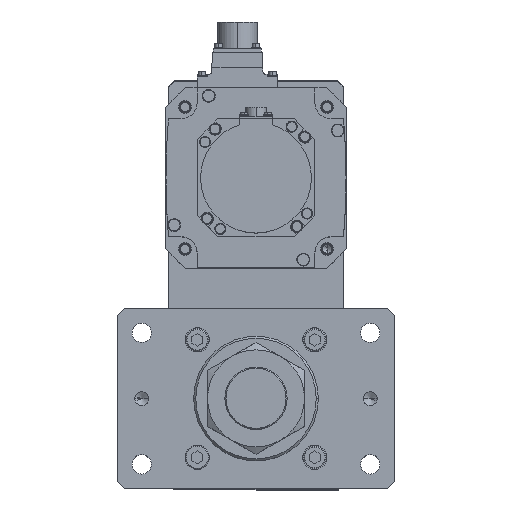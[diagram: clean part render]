
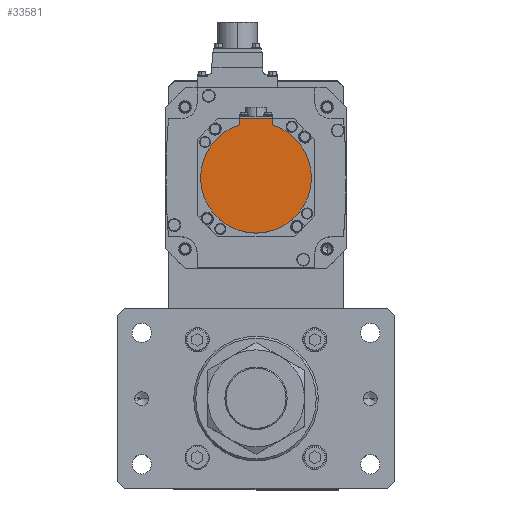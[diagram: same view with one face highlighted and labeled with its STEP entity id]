
A CAD part, top view. The second image highlights one B-rep face of the part: STEP entity #33581.
In plain terms, the highlighted planar face has unit normal (0, 0, 1) as drawn and (0, 0, -1) by its records, which use the part's own axes.
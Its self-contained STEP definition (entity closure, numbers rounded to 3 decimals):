
#1021 = AXIS2_PLACEMENT_3D ( 'NONE', #6267, #30344, #17011 ) ;
#1083 = AXIS2_PLACEMENT_3D ( 'NONE', #25400, #10460, #8161 ) ;
#1740 = VERTEX_POINT ( 'NONE', #20344 ) ;
#2499 = VERTEX_POINT ( 'NONE', #26440 ) ;
#4137 = EDGE_CURVE ( 'NONE', #22192, #17654, #18869, .T. ) ;
#5046 = CARTESIAN_POINT ( 'NONE',  ( 0., -1.249, -146.5 ) ) ;
#5788 = LINE ( 'NONE', #32975, #11590 ) ;
#6267 = CARTESIAN_POINT ( 'NONE',  ( 0., 0., -146.5 ) ) ;
#6814 = DIRECTION ( 'NONE',  ( 0., 1., 0. ) ) ;
#7150 = EDGE_LOOP ( 'NONE', ( #13578, #8003, #13769, #31402, #25792, #34171 ) ) ;
#7500 = FACE_OUTER_BOUND ( 'NONE', #7150, .T. ) ;
#7616 = CARTESIAN_POINT ( 'NONE',  ( -12., -38.158, -146.5 ) ) ;
#8003 = ORIENTED_EDGE ( 'NONE', *, *, #10146, .F. ) ;
#8161 = DIRECTION ( 'NONE',  ( 1., 0., 0. ) ) ;
#8260 = CARTESIAN_POINT ( 'NONE',  ( 0., -42.5, -146.5 ) ) ;
#9440 = CIRCLE ( 'NONE', #1083, 40. ) ;
#10146 = EDGE_CURVE ( 'NONE', #20419, #31971, #9440, .T. ) ;
#10460 = DIRECTION ( 'NONE',  ( 0., 0., 1. ) ) ;
#10464 = CIRCLE ( 'NONE', #19492, 40. ) ;
#10528 = PLANE ( 'NONE',  #22724 ) ;
#11401 = EDGE_CURVE ( 'NONE', #22192, #2499, #18127, .T. ) ;
#11458 = CARTESIAN_POINT ( 'NONE',  ( 0., 0., -146.5 ) ) ;
#11590 = VECTOR ( 'NONE', #6814, 1000. ) ;
#11709 = VECTOR ( 'NONE', #12651, 1000. ) ;
#12651 = DIRECTION ( 'NONE',  ( 0., 1., 0. ) ) ;
#13578 = ORIENTED_EDGE ( 'NONE', *, *, #28928, .T. ) ;
#13769 = ORIENTED_EDGE ( 'NONE', *, *, #16482, .F. ) ;
#15878 = DIRECTION ( 'NONE',  ( 1., 0., 0. ) ) ;
#16482 = EDGE_CURVE ( 'NONE', #1740, #20419, #24665, .T. ) ;
#16827 = DIRECTION ( 'NONE',  ( 0., 0., 1. ) ) ;
#17011 = DIRECTION ( 'NONE',  ( 1., 0., 0. ) ) ;
#17654 = VERTEX_POINT ( 'NONE', #32586 ) ;
#18127 = LINE ( 'NONE', #8260, #30647 ) ;
#18869 = LINE ( 'NONE', #28911, #11709 ) ;
#19492 = AXIS2_PLACEMENT_3D ( 'NONE', #11458, #16827, #24903 ) ;
#19924 = EDGE_CURVE ( 'NONE', #17654, #1740, #10464, .T. ) ;
#20344 = CARTESIAN_POINT ( 'NONE',  ( 40., 0., -146.5 ) ) ;
#20419 = VERTEX_POINT ( 'NONE', #24052 ) ;
#22192 = VERTEX_POINT ( 'NONE', #26123 ) ;
#22724 = AXIS2_PLACEMENT_3D ( 'NONE', #5046, #29224, #15878 ) ;
#23986 = DIRECTION ( 'NONE',  ( -1., 0., 0. ) ) ;
#24052 = CARTESIAN_POINT ( 'NONE',  ( -40., 0., -146.5 ) ) ;
#24665 = CIRCLE ( 'NONE', #1021, 40. ) ;
#24903 = DIRECTION ( 'NONE',  ( 1., 0., 0. ) ) ;
#25400 = CARTESIAN_POINT ( 'NONE',  ( 0., 0., -146.5 ) ) ;
#25792 = ORIENTED_EDGE ( 'NONE', *, *, #4137, .F. ) ;
#26123 = CARTESIAN_POINT ( 'NONE',  ( 12., -42.5, -146.5 ) ) ;
#26440 = CARTESIAN_POINT ( 'NONE',  ( -12., -42.5, -146.5 ) ) ;
#28911 = CARTESIAN_POINT ( 'NONE',  ( 12., -1.249, -146.5 ) ) ;
#28928 = EDGE_CURVE ( 'NONE', #2499, #31971, #5788, .T. ) ;
#29224 = DIRECTION ( 'NONE',  ( 0., 0., 1. ) ) ;
#30344 = DIRECTION ( 'NONE',  ( 0., 0., 1. ) ) ;
#30647 = VECTOR ( 'NONE', #23986, 1000. ) ;
#31402 = ORIENTED_EDGE ( 'NONE', *, *, #19924, .F. ) ;
#31971 = VERTEX_POINT ( 'NONE', #7616 ) ;
#32586 = CARTESIAN_POINT ( 'NONE',  ( 12., -38.158, -146.5 ) ) ;
#32975 = CARTESIAN_POINT ( 'NONE',  ( -12., -40.329, -146.5 ) ) ;
#33581 = ADVANCED_FACE ( 'NONE', ( #7500 ), #10528, .F. ) ;
#34171 = ORIENTED_EDGE ( 'NONE', *, *, #11401, .T. ) ;
